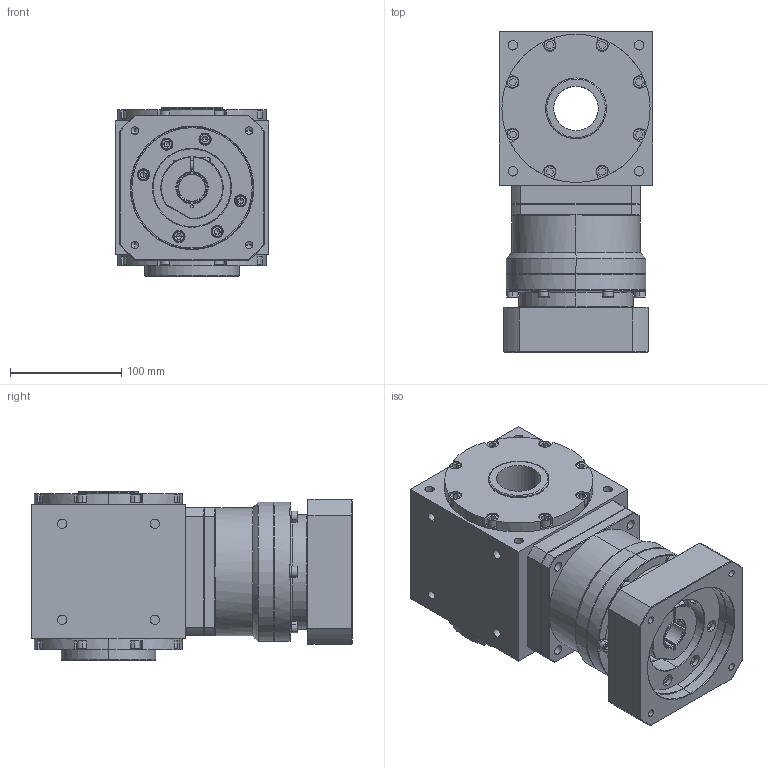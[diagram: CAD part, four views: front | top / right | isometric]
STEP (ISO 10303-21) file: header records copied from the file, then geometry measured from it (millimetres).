
FILE_DESCRIPTION (( 'STEP AP203' ), '1' );
FILE_NAME ('AAW135AS-L1-RF 24-110-145-M8.STEP', '2024-12-14T07:44:16', ( '' ), ( '' ), 'SwSTEP 2.0', 'SolidWorks 2021', '' );
FILE_SCHEMA (( 'CONFIG_CONTROL_DESIGN' ));
Length unit declared in the file: millimetre
Products named in the file (3): AAW135AS-RF; AAW135AS-L1-RF 24-110-145-M8; VRB-115-L1-S2-P1 24-110-145-M8
Assembly tree (2 placements, depth 2):
  AAW135AS-L1-RF 24-110-145-M8
    AAW135AS-RF
    VRB-115-L1-S2-P1 24-110-145-M8
Bounding box: 138 x 288 x 151.5 mm (x, y, z)
Volume: 4139661.4 mm3; surface area: 365290.8 mm2
Topology: 33 solids, 33 shells, 1342 faces, 3232 edges, 2036 vertices
Faces by surface type: plane 634, cylinder 470, cone 200, torus 36, bspline 2
Entity records: 40346 total; most frequent: CARTESIAN_POINT 8183, DIRECTION 7056, ORIENTED_EDGE 6344, EDGE_CURVE 3172, AXIS2_PLACEMENT_3D 2706, VERTEX_POINT 2034, VECTOR 1644, LINE 1644
